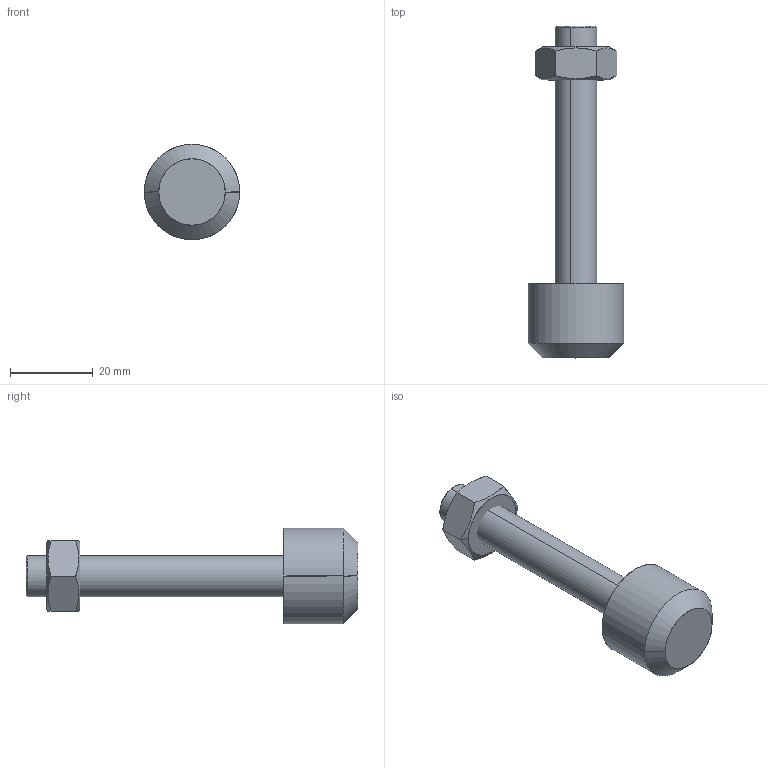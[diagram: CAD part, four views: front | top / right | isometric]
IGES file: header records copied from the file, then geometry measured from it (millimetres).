
Start section: SolidWorks IGES file using analytic representation for surfaces
Global section: file name: C:\Projetos\Ponteiras\PB\PB-M10.IGS; native system: SolidWorks 2011; preprocessor: SolidWorks 2011; author: Usuario; date: 110523.111739; units: millimetre
Bounding box: 23 x 80 x 23 mm (x, y, z)
Surface area: 5656 mm2 (no closed solid volume)
Topology: 0 solids, 0 shells, 36 faces, 572 edges, 570 vertices
Faces by surface type: revolution 24, bspline 12
